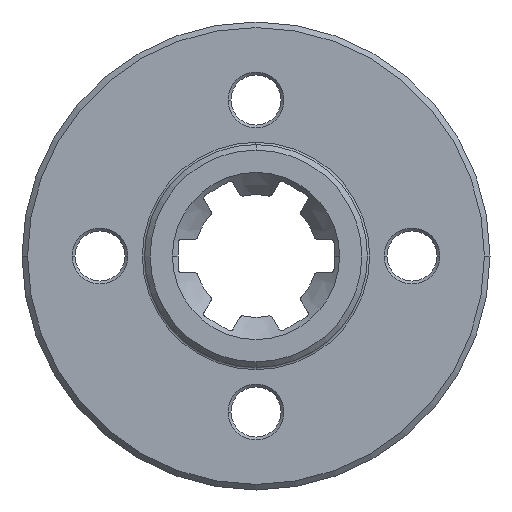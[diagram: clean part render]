
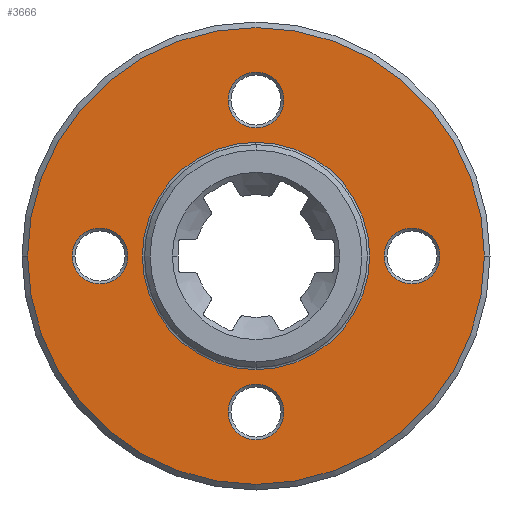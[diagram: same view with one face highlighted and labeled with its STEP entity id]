
A CAD part, left-side view. The second image highlights one B-rep face of the part: STEP entity #3666.
In plain terms, the highlighted planar face has unit normal (-1, 0, 0).
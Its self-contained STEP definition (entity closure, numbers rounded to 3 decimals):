
#1759=CARTESIAN_POINT('',(0.,0.,
0.));
#1760=DIRECTION('',(-1.,0.,0.));
#1761=DIRECTION('',(0.,-1.,0.));
#1762=AXIS2_PLACEMENT_3D('',#1759,#1760,#1761);
#1767=CARTESIAN_POINT('',(0.,0.,
0.));
#1768=DIRECTION('',(-1.,0.,0.));
#1769=DIRECTION('',(0.,1.,0.));
#1770=AXIS2_PLACEMENT_3D('',#1767,#1768,#1769);
#1775=CARTESIAN_POINT('',(0.,0.,0.));
#1776=DIRECTION('',(1.,0.,0.));
#1777=DIRECTION('',(0.,0.,1.));
#1778=AXIS2_PLACEMENT_3D('',#1775,#1776,#1777);
#1783=CARTESIAN_POINT('',(0.,0.,0.));
#1784=DIRECTION('',(1.,0.,0.));
#1785=DIRECTION('',(0.,0.,-1.));
#1786=AXIS2_PLACEMENT_3D('',#1783,#1784,#1785);
#1791=CARTESIAN_POINT('',(0.,0.,-14.));
#1792=DIRECTION('',(1.,0.,0.));
#1793=DIRECTION('',(0.,1.,0.));
#1794=AXIS2_PLACEMENT_3D('',#1791,#1792,#1793);
#1799=CARTESIAN_POINT('',(0.,0.,-14.));
#1800=DIRECTION('',(1.,0.,0.));
#1801=DIRECTION('',(0.,-1.,0.));
#1802=AXIS2_PLACEMENT_3D('',#1799,#1800,#1801);
#1807=CARTESIAN_POINT('',(0.,14.,0.));
#1808=DIRECTION('',(1.,0.,0.));
#1809=DIRECTION('',(0.,1.,0.));
#1810=AXIS2_PLACEMENT_3D('',#1807,#1808,#1809);
#1815=CARTESIAN_POINT('',(0.,14.,0.));
#1816=DIRECTION('',(1.,0.,0.));
#1817=DIRECTION('',(0.,-1.,0.));
#1818=AXIS2_PLACEMENT_3D('',#1815,#1816,#1817);
#1823=CARTESIAN_POINT('',(0.,0.,14.));
#1824=DIRECTION('',(1.,0.,0.));
#1825=DIRECTION('',(0.,1.,0.));
#1826=AXIS2_PLACEMENT_3D('',#1823,#1824,#1825);
#1831=CARTESIAN_POINT('',(0.,0.,14.));
#1832=DIRECTION('',(1.,0.,0.));
#1833=DIRECTION('',(0.,-1.,0.));
#1834=AXIS2_PLACEMENT_3D('',#1831,#1832,#1833);
#1839=CARTESIAN_POINT('',(0.,-14.,0.));
#1840=DIRECTION('',(1.,0.,0.));
#1841=DIRECTION('',(0.,1.,0.));
#1842=AXIS2_PLACEMENT_3D('',#1839,#1840,#1841);
#1847=CARTESIAN_POINT('',(0.,-14.,0.));
#1848=DIRECTION('',(1.,0.,0.));
#1849=DIRECTION('',(0.,-1.,0.));
#1850=AXIS2_PLACEMENT_3D('',#1847,#1848,#1849);
#2293=CARTESIAN_POINT('',(0.,-20.5,0.));
#2294=CARTESIAN_POINT('',(0.,20.5,0.));
#2295=VERTEX_POINT('',#2293);
#2296=VERTEX_POINT('',#2294);
#2329=CARTESIAN_POINT('',(0.,0.,10.2));
#2330=CARTESIAN_POINT('',(0.,0.,-10.2));
#2331=VERTEX_POINT('',#2329);
#2332=VERTEX_POINT('',#2330);
#2341=CARTESIAN_POINT('',(0.,2.5,-14.));
#2342=CARTESIAN_POINT('',(0.,-2.5,-14.));
#2343=VERTEX_POINT('',#2341);
#2344=VERTEX_POINT('',#2342);
#2357=CARTESIAN_POINT('',(0.,16.5,0.));
#2358=CARTESIAN_POINT('',(0.,11.5,0.));
#2359=VERTEX_POINT('',#2357);
#2360=VERTEX_POINT('',#2358);
#2373=CARTESIAN_POINT('',(0.,2.5,14.));
#2374=CARTESIAN_POINT('',(0.,-2.5,14.));
#2375=VERTEX_POINT('',#2373);
#2376=VERTEX_POINT('',#2374);
#2389=CARTESIAN_POINT('',(0.,-11.5,0.));
#2390=CARTESIAN_POINT('',(0.,-16.5,0.));
#2391=VERTEX_POINT('',#2389);
#2392=VERTEX_POINT('',#2390);
#3626=CARTESIAN_POINT('',(0.,0.,0.));
#3627=DIRECTION('',(-1.,0.,0.));
#3628=DIRECTION('',(0.,1.,0.));
#3629=AXIS2_PLACEMENT_3D('',#3626,#3627,#3628);
#3630=PLANE('',#3629);
#3632=ORIENTED_EDGE('',*,*,#3631,.F.);
#3633=ORIENTED_EDGE('',*,*,#3616,.F.);
#3634=EDGE_LOOP('',(#3632,#3633));
#3635=FACE_OUTER_BOUND('',#3634,.F.);
#3637=ORIENTED_EDGE('',*,*,#3636,.F.);
#3639=ORIENTED_EDGE('',*,*,#3638,.F.);
#3640=EDGE_LOOP('',(#3637,#3639));
#3641=FACE_BOUND('',#3640,.F.);
#3643=ORIENTED_EDGE('',*,*,#3642,.F.);
#3645=ORIENTED_EDGE('',*,*,#3644,.F.);
#3646=EDGE_LOOP('',(#3643,#3645));
#3647=FACE_BOUND('',#3646,.F.);
#3649=ORIENTED_EDGE('',*,*,#3648,.F.);
#3651=ORIENTED_EDGE('',*,*,#3650,.F.);
#3652=EDGE_LOOP('',(#3649,#3651));
#3653=FACE_BOUND('',#3652,.F.);
#3655=ORIENTED_EDGE('',*,*,#3654,.F.);
#3657=ORIENTED_EDGE('',*,*,#3656,.F.);
#3658=EDGE_LOOP('',(#3655,#3657));
#3659=FACE_BOUND('',#3658,.F.);
#3661=ORIENTED_EDGE('',*,*,#3660,.F.);
#3663=ORIENTED_EDGE('',*,*,#3662,.F.);
#3664=EDGE_LOOP('',(#3661,#3663));
#3665=FACE_BOUND('',#3664,.F.);
#3666=ADVANCED_FACE('',(#3635,#3641,#3647,#3653,#3659,#3665),#3630,.T.);
#1763=CIRCLE('',#1762,20.5);
#1771=CIRCLE('',#1770,20.5);
#1779=CIRCLE('',#1778,10.2);
#1787=CIRCLE('',#1786,10.2);
#1795=CIRCLE('',#1794,2.5);
#1803=CIRCLE('',#1802,2.5);
#1811=CIRCLE('',#1810,2.5);
#1819=CIRCLE('',#1818,2.5);
#1827=CIRCLE('',#1826,2.5);
#1835=CIRCLE('',#1834,2.5);
#1843=CIRCLE('',#1842,2.5);
#1851=CIRCLE('',#1850,2.5);
#3616=EDGE_CURVE('',#2296,#2295,#1771,.T.);
#3631=EDGE_CURVE('',#2295,#2296,#1763,.T.);
#3636=EDGE_CURVE('',#2331,#2332,#1779,.T.);
#3638=EDGE_CURVE('',#2332,#2331,#1787,.T.);
#3642=EDGE_CURVE('',#2343,#2344,#1795,.T.);
#3644=EDGE_CURVE('',#2344,#2343,#1803,.T.);
#3648=EDGE_CURVE('',#2359,#2360,#1811,.T.);
#3650=EDGE_CURVE('',#2360,#2359,#1819,.T.);
#3654=EDGE_CURVE('',#2375,#2376,#1827,.T.);
#3656=EDGE_CURVE('',#2376,#2375,#1835,.T.);
#3660=EDGE_CURVE('',#2391,#2392,#1843,.T.);
#3662=EDGE_CURVE('',#2392,#2391,#1851,.T.);
